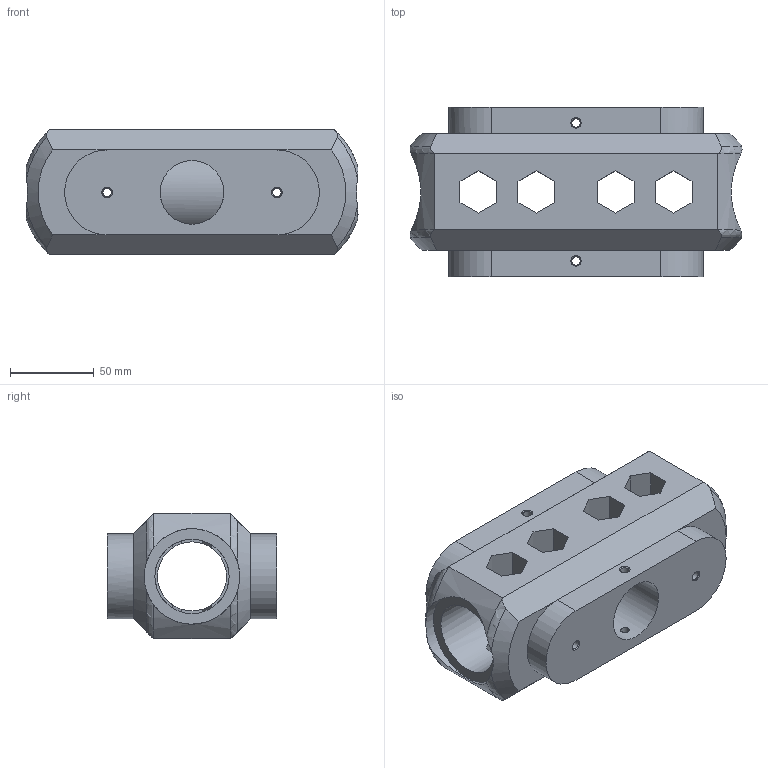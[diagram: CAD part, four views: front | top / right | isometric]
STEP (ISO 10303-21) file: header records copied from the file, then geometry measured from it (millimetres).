
FILE_DESCRIPTION(/* description */ (''),/* implementation_level */ '2;1');
FILE_NAME(/* name */ 'C:\Users\zachr\Desktop\3D printer stuff\Equi Mount Mk2\RA Axis.stp',/* time_stamp */ '2018-03-29T20:14:59-05:00',/* author */ ('zachr'),/* organization */ (''),/* preprocessor_version */ 'ST-DEVELOPER v16.13',/* originating_system */ 'Autodesk Inventor 2018',/* authorisation */ '');
FILE_SCHEMA (('AUTOMOTIVE_DESIGN { 1 0 10303 214 3 1 1 }'));
Length unit declared in the file: inch
Products named in the file (1): RA Axis
Bounding box: 198.59 x 101.6 x 75.07 mm (x, y, z)
Volume: 743447.9 mm3; surface area: 105619.5 mm2
Topology: 1 solids, 1 shells, 116 faces, 349 edges, 229 vertices
Faces by surface type: plane 71, cylinder 25, cone 12, torus 8
Full cylindrical faces by diameter (mm): 5.105 x8, 38.1 x2, 41.275 x1, 44.45 x2, 57.15 x2
Entity records: 4345 total; most frequent: CARTESIAN_POINT 1278, DIRECTION 635, ORIENTED_EDGE 598, EDGE_CURVE 299, AXIS2_PLACEMENT_3D 249, VERTEX_POINT 206, EDGE_LOOP 171, LINE 137
